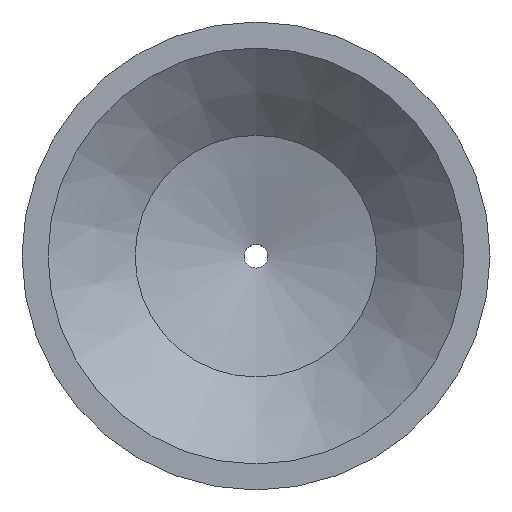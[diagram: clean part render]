
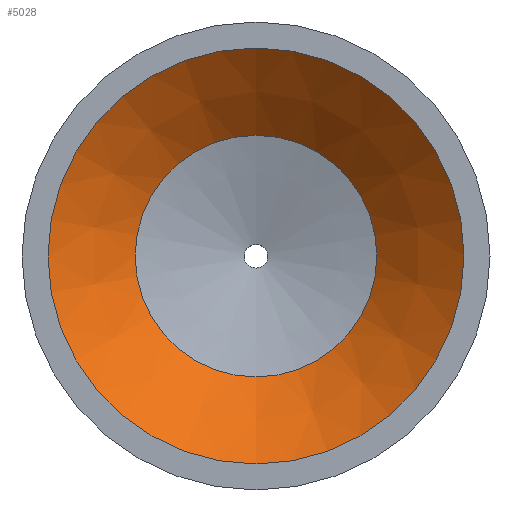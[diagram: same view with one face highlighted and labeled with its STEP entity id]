
A CAD part, top view. The second image highlights one B-rep face of the part: STEP entity #5028.
In plain terms, the highlighted conical face has half-angle 48.675 degrees and reference radius 36.323 mm.
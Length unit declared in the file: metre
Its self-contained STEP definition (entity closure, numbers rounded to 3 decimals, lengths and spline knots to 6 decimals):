
#4959 = PLANE('',#4960);
#4960 = AXIS2_PLACEMENT_3D('',#4961,#4962,#4963);
#4961 = CARTESIAN_POINT('',(0.,0.04595,
    0.079533));
#4962 = DIRECTION('',(0.,0.,1.));
#4963 = DIRECTION('',(-1.,0.,0.));
#5000 = EDGE_CURVE('',#5001,#5001,#5003,.T.);
#5001 = VERTEX_POINT('',#5002);
#5002 = CARTESIAN_POINT('',(0.,-0.04595,
    0.079533));
#5003 = SURFACE_CURVE('',#5004,(#5009,#5016),.PCURVE_S1.);
#5004 = CIRCLE('',#5005,0.04595);
#5005 = AXIS2_PLACEMENT_3D('',#5006,#5007,#5008);
#5006 = CARTESIAN_POINT('',(0.,0.,
    0.079533));
#5007 = DIRECTION('',(0.,0.,1.));
#5008 = DIRECTION('',(0.,1.,0.));
#5009 = PCURVE('',#4959,#5010);
#5010 = DEFINITIONAL_REPRESENTATION('',(#5011),#5015);
#5011 = CIRCLE('',#5012,0.04595);
#5012 = AXIS2_PLACEMENT_2D('',#5013,#5014);
#5013 = CARTESIAN_POINT('',(0.,0.046));
#5014 = DIRECTION('',(0.,-1.));
#5015 = ( GEOMETRIC_REPRESENTATION_CONTEXT(2) 
PARAMETRIC_REPRESENTATION_CONTEXT() REPRESENTATION_CONTEXT('2D SPACE',''
  ) );
#5016 = PCURVE('',#5017,#5022);
#5017 = CONICAL_SURFACE('',#5018,0.036323,0.85);
#5018 = AXIS2_PLACEMENT_3D('',#5019,#5020,#5021);
#5019 = CARTESIAN_POINT('',(0.,0.,0.071069));
#5020 = DIRECTION('',(0.,0.,1.));
#5021 = DIRECTION('',(0.,1.,0.));
#5022 = DEFINITIONAL_REPRESENTATION('',(#5023),#5027);
#5023 = LINE('',#5024,#5025);
#5024 = CARTESIAN_POINT('',(0.,0.008));
#5025 = VECTOR('',#5026,1.);
#5026 = DIRECTION('',(1.,0.));
#5027 = ( GEOMETRIC_REPRESENTATION_CONTEXT(2) 
PARAMETRIC_REPRESENTATION_CONTEXT() REPRESENTATION_CONTEXT('2D SPACE',''
  ) );
#5028 = ADVANCED_FACE('',(#5029),#5017,.F.);
#5029 = FACE_BOUND('',#5030,.F.);
#5030 = EDGE_LOOP('',(#5031,#5054,#5081,#5082));
#5031 = ORIENTED_EDGE('',*,*,#5032,.T.);
#5032 = EDGE_CURVE('',#5001,#5033,#5035,.T.);
#5033 = VERTEX_POINT('',#5034);
#5034 = CARTESIAN_POINT('',(0.,-0.026697,
    0.062604));
#5035 = SEAM_CURVE('',#5036,(#5040,#5047),.PCURVE_S1.);
#5036 = LINE('',#5037,#5038);
#5037 = CARTESIAN_POINT('',(0.,-0.036323,
    0.071069));
#5038 = VECTOR('',#5039,1.);
#5039 = DIRECTION('',(0.,0.751,-0.66)
  );
#5040 = PCURVE('',#5017,#5041);
#5041 = DEFINITIONAL_REPRESENTATION('',(#5042),#5046);
#5042 = LINE('',#5043,#5044);
#5043 = CARTESIAN_POINT('',(3.142,0.));
#5044 = VECTOR('',#5045,1.);
#5045 = DIRECTION('',(0.,-1.));
#5046 = ( GEOMETRIC_REPRESENTATION_CONTEXT(2) 
PARAMETRIC_REPRESENTATION_CONTEXT() REPRESENTATION_CONTEXT('2D SPACE',''
  ) );
#5047 = PCURVE('',#5017,#5048);
#5048 = DEFINITIONAL_REPRESENTATION('',(#5049),#5053);
#5049 = LINE('',#5050,#5051);
#5050 = CARTESIAN_POINT('',(9.425,0.));
#5051 = VECTOR('',#5052,1.);
#5052 = DIRECTION('',(0.,-1.));
#5053 = ( GEOMETRIC_REPRESENTATION_CONTEXT(2) 
PARAMETRIC_REPRESENTATION_CONTEXT() REPRESENTATION_CONTEXT('2D SPACE',''
  ) );
#5054 = ORIENTED_EDGE('',*,*,#5055,.T.);
#5055 = EDGE_CURVE('',#5033,#5033,#5056,.T.);
#5056 = SURFACE_CURVE('',#5057,(#5062,#5069),.PCURVE_S1.);
#5057 = CIRCLE('',#5058,0.026697);
#5058 = AXIS2_PLACEMENT_3D('',#5059,#5060,#5061);
#5059 = CARTESIAN_POINT('',(0.,0.,
    0.062604));
#5060 = DIRECTION('',(0.,0.,1.));
#5061 = DIRECTION('',(0.,1.,0.));
#5062 = PCURVE('',#5017,#5063);
#5063 = DEFINITIONAL_REPRESENTATION('',(#5064),#5068);
#5064 = LINE('',#5065,#5066);
#5065 = CARTESIAN_POINT('',(0.,-0.008));
#5066 = VECTOR('',#5067,1.);
#5067 = DIRECTION('',(1.,0.));
#5068 = ( GEOMETRIC_REPRESENTATION_CONTEXT(2) 
PARAMETRIC_REPRESENTATION_CONTEXT() REPRESENTATION_CONTEXT('2D SPACE',''
  ) );
#5069 = PCURVE('',#5070,#5075);
#5070 = CONICAL_SURFACE('',#5071,0.014657,1.293);
#5071 = AXIS2_PLACEMENT_3D('',#5072,#5073,#5074);
#5072 = CARTESIAN_POINT('',(0.,0.,0.059169));
#5073 = DIRECTION('',(0.,0.,1.));
#5074 = DIRECTION('',(0.,1.,0.));
#5075 = DEFINITIONAL_REPRESENTATION('',(#5076),#5080);
#5076 = LINE('',#5077,#5078);
#5077 = CARTESIAN_POINT('',(0.,0.003));
#5078 = VECTOR('',#5079,1.);
#5079 = DIRECTION('',(1.,0.));
#5080 = ( GEOMETRIC_REPRESENTATION_CONTEXT(2) 
PARAMETRIC_REPRESENTATION_CONTEXT() REPRESENTATION_CONTEXT('2D SPACE',''
  ) );
#5081 = ORIENTED_EDGE('',*,*,#5032,.F.);
#5082 = ORIENTED_EDGE('',*,*,#5000,.F.);
